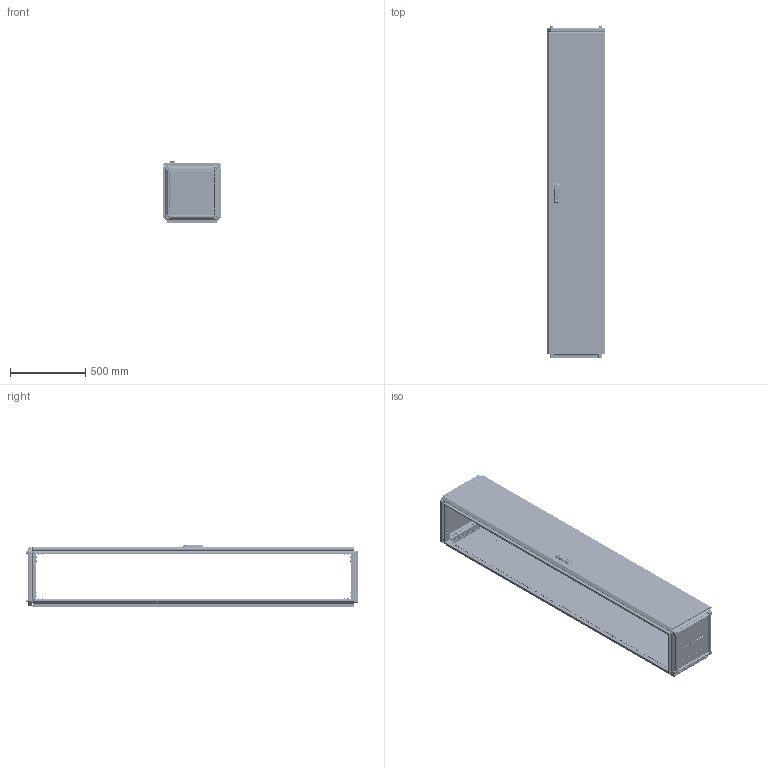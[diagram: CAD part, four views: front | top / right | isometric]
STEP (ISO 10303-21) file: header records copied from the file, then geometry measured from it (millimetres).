
FILE_DESCRIPTION (( 'STEP AP203' ), '1' );
FILE_NAME ('MA1.000.040422.10.00 AleSta2244 Øêàô AleSta 400õ400õ2200.STEP', '2024-08-23T08:40:09', ( '' ), ( '' ), 'SwSTEP 2.0', 'SolidWorks 2021', '' );
FILE_SCHEMA (( 'CONFIG_CONTROL_DESIGN' ));
Length unit declared in the file: millimetre
Products named in the file (49): MA1.101.060620.20.01 Ïîëîòíî íèæíåé ïàíåëè 600õ600_400å400; 諘蜱齁罻 022 瀁錒瀔隮; Óïëîòíèòåëü ïàíåëè íèæíåé_  ‚=2200; Îñü ïåòëè 4õ52_‚¨­â A.M4x0,5x40 ƒŽ‘’ 11644-75; ﾘ琺矜 01.019 ﾃﾎﾑﾒ11371-78_12; Øïèëüêà Ì6õ12_˜¯¨«ìª  Œ6å12; MA1.200.060620.10.00 AleSta-PR206  Ïàíåëü çàäíÿÿ, äëÿ øêàôîâ ALESTA, 2000 x 600_2200å400; MA1.200.060620.31.04 ðèãåëü çàìêà äâåðè; Âèíò ñ âí. øåñòèãðàííèêîì M12 DIN912_•30; Âèíò_ðåçüáîâûäàâëèâàþùèé_Ì5õ12_DIN 7500E_Œ5å12; MS463-2-3(1); MA1.101.060620.00.02 Ïðîôèëü ïîïåðå÷íûé ñâàðíîé_00 L=298 (˜=400); Âèíò ðåçüáîâûäàâëèâàþùèé Ì6õ12 DIN 7500E_Œ6å10; MA1.100.060620.00.01 Ñîåäèíèòåëü óãëîâîé_00; Âèíò ñàìîíàðåçàþùèé ñ ïîòàéíîé ãîëîâêîé Ì5x14 DIN 7500 M TORX, êëàññ ïðî÷íîñòè 8.8, îöèíêîâàííàÿ ñòàëü_Œ5å12; MA1.000.040422.10.00 AleSta2244 Øêàô AleSta 400õ400õ2200; MA1.200.060620.31.02 Ðåéêà íà äâåðü âåðòèêàëüíàÿ Â = 2000_‚ = 2200; MA1.101.060620.20.00 Íèæíÿÿ ïàíåëü 600õ600_400å400; Øïèëüêà Ì6õ12_˜¯¨«ìª  Œ6å16; Ãàéêà ñàìîêîíòðÿùàÿñÿ ñ íåéëîíîâîé âñòàâêîé Ì6 DIN 985, êëàññ ïðî÷íîñòè 8, îöèíêîâàííàÿ ñòàëü_Œ6; 7380-2 ISO Âèíòû ñ ïîëóêðóãëîé ãîëîâêîé ñ ôëàíöåì ñ âíóòðåííèì øåñòèãðàííèêîì Ì4õ10; Âèíò ñàìîíàðåçàþùèé ñ ïîòàéíîé ãîëîâêîé Ì5x14 DIN 7500 M TORX, êëàññ ïðî÷íîñòè 8.8, îöèíêîâàííàÿ ñòàëü_Œ5å14; Ïðîáêà ïëàñòèêîâàÿ óíèâåðñàëüíàÿ ïîä îòâåðñòèå 4,5 ìì, ñåðèÿ ST, öâåò áåñöâåòíûé – ST4,5; MA1.102.060620.00.00 AleSta-VG2000 Ñòîéêè âåðòèêàëüíûå, Â=2000ìì  (4øò)_ 400å400; Óïëîòíèòåëü ïàíåëè íèæíåé_400å400; MA1.200.060620.31.05 Óãëîâîé óïîð äâåðíîé òÿãè; MA1.101.060620.10.01 Ïîëîòíî êðûøè 600õ600_400å400; MA1.102.060620.00.01 Ïðîôèëü âåðòèêàëüíûé ñâàðíîé_05 L=2098 (‚=2200); Íàâåñêà íà êîðïóñ ïîä êëåïêó; Ãàéêà ñàìîêîíòðÿùàÿñÿ ñ íåéëîíîâîé âñòàâêîé Ì6 DIN 985, êëàññ ïðî÷íîñòè 8, îöèíêîâàííàÿ ñòàëü_Œ5; MA1.101.060620.10.00 Êðûøà 600x600_400å400; MA1.200.060620.31.03 Ðåéêà íà äâåðü ãîðèçîíòàëüíàÿ Ø = 600_˜=400; Áîëò øåñòèãðàííûé Ì5õ12 DIN 933, êëàññ ïðî÷íîñòè 8.8, îöèíêîâàííàÿ ñòàëü; MA1.101.060620.20.02 Çàêðûòèå íèæíåé ïàíåëè 600õ600_400å400; ﾘ琺矜 65ﾃ 019 ﾃﾎﾑﾒ 6402-70_12; MA1.200.060620.31.01 Ïîëîòíî äâåðè ñïëîøíîé 2000õ600_2200å400; êðåïëåíèå_êðóãëîé_òÿãè_RG1020-1.stp; Øïèëüêà Ì6õ12_˜¯¨«ìª  Œ6å20; äåðæàòåëü_êðóãëîé_òÿãèRG002-RG1010-2-i-RG1010-3-.stp; ﾇﾀﾊﾋﾅﾏﾊﾀ ﾃﾀﾅﾗﾍﾀﾟ ﾘﾅﾑﾒﾈﾃﾐﾀﾍﾍﾀﾟ ﾑ ﾓﾌﾅﾍﾜﾘﾅﾍﾍﾛﾌ ﾁﾎﾐﾒﾎﾌ M4 X 11 (0.5-2.5 ﾌﾌ) HEX U-S ﾖﾈﾍﾊ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
Assembly tree (337 placements, depth 4):
  MA1.000.040422.10.00 AleSta2244 Øêàô AleSta 400õ400õ2200
    MA1.101.060620.00.00 AleSta-RB66 Êîìïëåêò êðûøà è îñíîâàíèå_ 400å400
      MA1.101.060620.00.02 Ïðîôèëü ïîïåðå÷íûé ñâàðíîé_00 L=298 (˜=400)  x8
      MA1.101.060620.10.00 Êðûøà 600x600_400å400
        MA1.101.060620.10.01 Ïîëîòíî êðûøè 600õ600_400å400
        Øïèëüêà Ì6õ12_˜¯¨«ìª  Œ6å12  x4
        Óïëîòíèòåëü ïàíåëè íèæíåé_400å400
      MA1.101.060620.20.00 Íèæíÿÿ ïàíåëü 600õ600_400å400
        MA1.101.060620.20.01 Ïîëîòíî íèæíåé ïàíåëè 600õ600_400å400
        ﾇﾀﾊﾋﾅﾏﾊﾀ ﾃﾀﾅﾗﾍﾀﾟ ﾘﾅﾑﾒﾈﾃﾐﾀﾍﾍﾀﾟ ﾑ ﾓﾌﾅﾍﾜﾘﾅﾍﾍﾛﾌ ﾁﾎﾐﾒﾎﾌ M4 X 11 (0.5-2.5 ﾌﾌ) HEX U-S ﾖﾈﾍﾊ  x4
        MA1.101.060620.20.02 Çàêðûòèå íèæíåé ïàíåëè 600õ600_400å400  x2
        7380-2 ISO Âèíòû ñ ïîëóêðóãëîé ãîëîâêîé ñ ôëàíöåì ñ âíóòðåííèì øåñòèãðàííèêîì Ì4õ10  x4
      Âèíò_ðåçüáîâûäàâëèâàþùèé_Ì5õ12_DIN 7500E_Œ5å12  x8
      MA1.100.060620.00.01 Ñîåäèíèòåëü óãëîâîé_00  x8
      Âèíò ñ âí. øåñòèãðàííèêîì M12 DIN912_•30  x4
      Âèíò ðåçüáîâûäàâëèâàþùèé Ì6õ12 DIN 7500E_Œ6å10  x96
      ﾘ琺矜 01.019 ﾃﾎﾑﾒ11371-78_12  x4
      ﾘ琺矜 65ﾃ 019 ﾃﾎﾑﾒ 6402-70_12  x4
      Øàéáà ñòîïîðíàÿ ñ íàðóæíûìè çóáöàìè SCHNORR, òèï VS öèíêîâûå õëîïüÿ Ì6 O6,4 ART 88121_Œ6  x80
    MA1.102.060620.00.00 AleSta-VG2000 Ñòîéêè âåðòèêàëüíûå, Â=2000ìì  (4øò)_ 400å400
      MA1.102.060620.00.01 Ïðîôèëü âåðòèêàëüíûé ñâàðíîé_05 L=2098 (‚=2200)  x4
    MA1.200.060620.10.00 AleSta-PR206  Ïàíåëü çàäíÿÿ, äëÿ øêàôîâ ALESTA, 2000 x 600_2200å400
      MA1.200.060620.11.00 Ïàíåëü çàäíÿÿ, äëÿ øêàôîâ AleSta, 2000x600_2200å400
        MA1.200.060620.11.01 Ïîëîòíî çàäíåé ïàíåëè 2000õ600_2200å400
        Óïëîòíèòåëü ïàíåëè íèæíåé_  ‚=2200
        Øïèëüêà Ì6õ12_˜¯¨«ìª  Œ6å12  x4
      Âèíò ñàìîíàðåçàþùèé ñ ïîòàéíîé ãîëîâêîé Ì5x14 DIN 7500 M TORX, êëàññ ïðî÷íîñòè 8.8, îöèíêîâàííàÿ ñòàëü_Œ5å14  x8
    MA1.200.060620.30.00 AleSta-D20M600 Äâåðü ñïëîøíàÿ äëÿ øêàôîâ ALESTA ÂõØ 2000õ600_2200å400
      MA1.200.060620.31.00 Äâåðü ñïëîøíàÿ äëÿ øêàôîâ ALESTA ÂõØ 2000õ600_2200å400
        MA1.200.060620.31.01 Ïîëîòíî äâåðè ñïëîøíîé 2000õ600_2200å400
        Óïëîòíèòåëü ïàíåëè íèæíåé_  ‚=2200
        Øïèëüêà Ì6õ12_˜¯¨«ìª  Œ6å20  x16
        Øïèëüêà Ì6õ12_˜¯¨«ìª  Œ6å16  x4
        Ïåòëÿ íà äâåðü ï-îáðàçíàÿ  x4
      MA1.200.060620.31.03 Ðåéêà íà äâåðü ãîðèçîíòàëüíàÿ Ø = 600_˜=400  x2
      諘蜱齁罻 022 瀁錒瀔隮  x4
      MA1.200.060620.31.02 Ðåéêà íà äâåðü âåðòèêàëüíàÿ Â = 2000_‚ = 2200  x2
      äåðæàòåëü_êðóãëîé_òÿãèRG002-RG1010-2-i-RG1010-3-.stp  x2
      òÿãà_lg001-2.STEP_‚=2200  x2
      êðåïëåíèå_êðóãëîé_òÿãè_RG1020-1.stp  x2
      MS463-2-3(1)
      Ãàéêà ñàìîêîíòðÿùàÿñÿ ñ íåéëîíîâîé âñòàâêîé Ì6 DIN 985, êëàññ ïðî÷íîñòè 8, îöèíêîâàííàÿ ñòàëü_Œ6  x16
      Ãàéêà ñàìîêîíòðÿùàÿñÿ ñ íåéëîíîâîé âñòàâêîé Ì6 DIN 985, êëàññ ïðî÷íîñòè 8, îöèíêîâàííàÿ ñòàëü_Œ5  x2
      Áîëò øåñòèãðàííûé Ì5õ12 DIN 933, êëàññ ïðî÷íîñòè 8.8, îöèíêîâàííàÿ ñòàëü  x2
      MA1.200.060620.31.04 ðèãåëü çàìêà äâåðè
      MA1.200.060620.31.05 Óãëîâîé óïîð äâåðíîé òÿãè  x2
      Âèíò_ðåçüáîâûäàâëèâàþùèé_Ì5õ12_DIN 7500E_00  x2
      Íàâåñêà íà êîðïóñ ïîä êëåïêó  x4
      Îñü ïåòëè 4õ52_‚¨­â A.M4x0,5x40 ƒŽ‘’ 11644-75  x4
      Âèíò ñàìîíàðåçàþùèé ñ ïîòàéíîé ãîëîâêîé Ì5x14 DIN 7500 M TORX, êëàññ ïðî÷íîñòè 8.8, îöèíêîâàííàÿ ñòàëü_Œ5å12  x8
  Ïðîáêà ïëàñòèêîâàÿ óíèâåðñàëüíàÿ ïîä îòâåðñòèå 4,5 ìì, ñåðèÿ ST, öâåò áåñöâåòíûé – ST4,5
Bounding box: 392 x 2210.9 x 416.8 mm (x, y, z)
Volume: 7682170.5 mm3; surface area: 9270987.9 mm2
Topology: 364 solids, 378 shells, 23435 faces, 60342 edges, 37736 vertices
Faces by surface type: plane 13993, cylinder 6749, bspline 921, cone 845, torus 829, sphere 98
Entity records: 239421 total; most frequent: CARTESIAN_POINT 78291, ORIENTED_EDGE 30750, DIRECTION 30194, EDGE_CURVE 15392, AXIS2_PLACEMENT_3D 10396, VERTEX_POINT 9601, VECTOR 9402, LINE 9402
